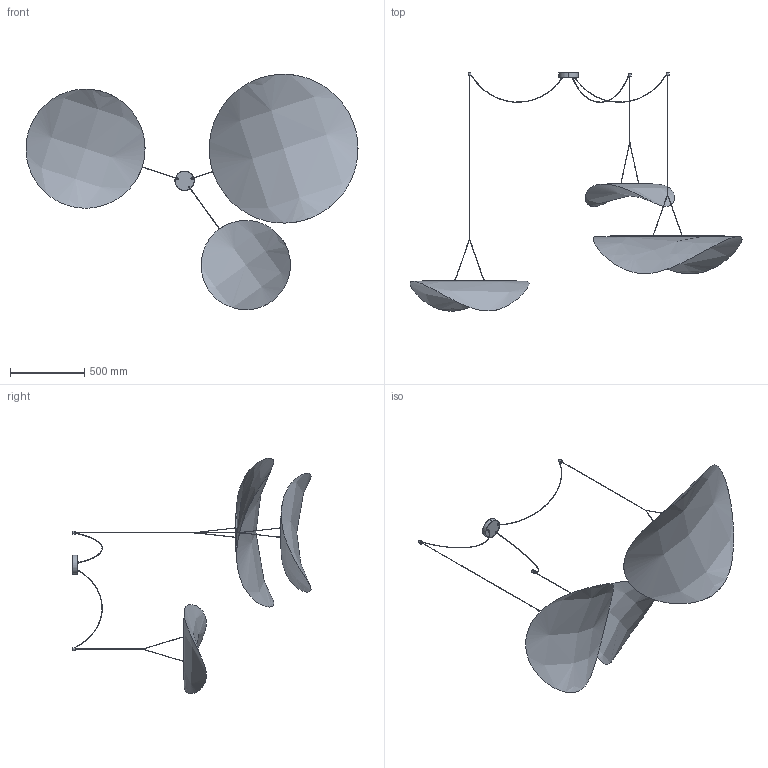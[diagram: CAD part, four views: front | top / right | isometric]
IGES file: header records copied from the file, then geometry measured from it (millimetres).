
Start section: SolidWorks IGES file using analytic representation for surfaces
Global section: file name: F:\燠隴矨\3D\2026-7\Tense Tyvek Pendant Lamp-3heads.IGS,15; native system: HSolidWorks 2022; preprocessor: SolidWorks 2022; author: MyPC; date: 260716.202523; units: millimetre
Bounding box: 2231.43 x 1600.95 x 1582.27 mm (x, y, z)
Surface area: 3561919.8 mm2 (no closed solid volume)
Topology: 0 solids, 0 shells, 139 faces, 2380 edges, 2380 vertices
Faces by surface type: bspline 99, revolution 40
